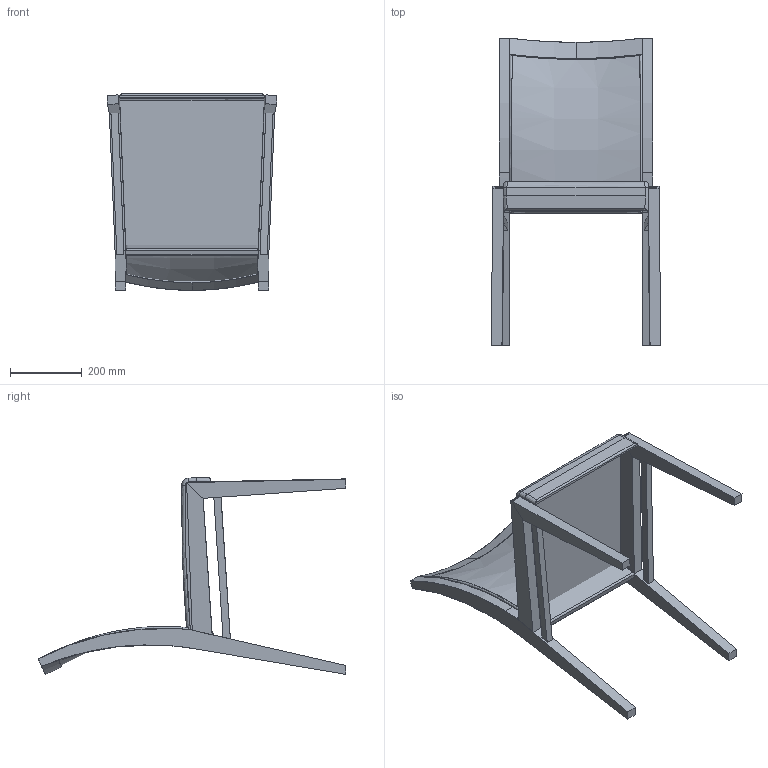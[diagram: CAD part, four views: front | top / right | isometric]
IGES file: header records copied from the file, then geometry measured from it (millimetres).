
Start section: SolidWorks IGES file using analytic representation for surfaces
Global section: file name: C:\Users\Adao\Documents\Trab Adao\Desenho técnico PRODUÇÃO\J M S\CASSIS\Linha CASSIS (sat)\CADEIRA M-12.IGS; native system: SolidWorks 2012; preprocessor: SolidWorks 2012; author: Adao; date: 121027.101244; units: millimetre
Bounding box: 473.63 x 860.16 x 549.96 mm (x, y, z)
Surface area: 1389701.7 mm2 (no closed solid volume)
Topology: 0 solids, 0 shells, 188 faces, 1818 edges, 1815 vertices
Faces by surface type: bspline 163, revolution 25
